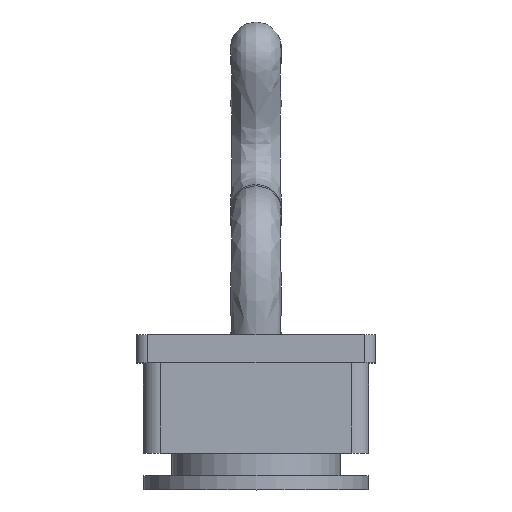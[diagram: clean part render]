
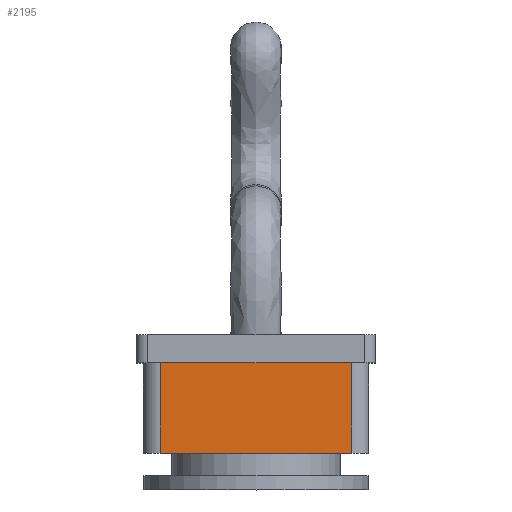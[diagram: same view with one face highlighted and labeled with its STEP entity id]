
A CAD part, top view. The second image highlights one B-rep face of the part: STEP entity #2195.
In plain terms, the highlighted planar face has unit normal (0, 0, 1).
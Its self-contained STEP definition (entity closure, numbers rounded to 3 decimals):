
#44 = PLANE('',#45);
#45 = AXIS2_PLACEMENT_3D('',#46,#47,#48);
#46 = CARTESIAN_POINT('',(-4.25,-46.4,246.25));
#47 = DIRECTION('',(-0.,1.,0.));
#48 = DIRECTION('',(0.,0.,1.));
#489 = VERTEX_POINT('',#490);
#490 = CARTESIAN_POINT('',(3.4,-46.4,254.5));
#509 = CYLINDRICAL_SURFACE('',#510,0.6);
#510 = AXIS2_PLACEMENT_3D('',#511,#512,#513);
#511 = CARTESIAN_POINT('',(3.4,-49.6,253.9));
#512 = DIRECTION('',(-0.,1.,0.));
#513 = DIRECTION('',(1.,0.,-0.));
#521 = EDGE_CURVE('',#522,#489,#524,.T.);
#522 = VERTEX_POINT('',#523);
#523 = CARTESIAN_POINT('',(-3.4,-46.4,254.5));
#524 = SURFACE_CURVE('',#525,(#529,#536),.PCURVE_S1.);
#525 = LINE('',#526,#527);
#526 = CARTESIAN_POINT('',(-4.,-46.4,254.5));
#527 = VECTOR('',#528,1.);
#528 = DIRECTION('',(1.,0.,-0.));
#529 = PCURVE('',#44,#530);
#530 = DEFINITIONAL_REPRESENTATION('',(#531),#535);
#531 = LINE('',#532,#533);
#532 = CARTESIAN_POINT('',(8.25,0.25));
#533 = VECTOR('',#534,1.);
#534 = DIRECTION('',(0.,1.));
#535 = ( GEOMETRIC_REPRESENTATION_CONTEXT(2) 
PARAMETRIC_REPRESENTATION_CONTEXT() REPRESENTATION_CONTEXT('2D SPACE',''
  ) );
#536 = PCURVE('',#537,#542);
#537 = PLANE('',#538);
#538 = AXIS2_PLACEMENT_3D('',#539,#540,#541);
#539 = CARTESIAN_POINT('',(-4.,-49.6,254.5));
#540 = DIRECTION('',(0.,0.,1.));
#541 = DIRECTION('',(1.,0.,-0.));
#542 = DEFINITIONAL_REPRESENTATION('',(#543),#547);
#543 = LINE('',#544,#545);
#544 = CARTESIAN_POINT('',(0.,3.2));
#545 = VECTOR('',#546,1.);
#546 = DIRECTION('',(1.,0.));
#547 = ( GEOMETRIC_REPRESENTATION_CONTEXT(2) 
PARAMETRIC_REPRESENTATION_CONTEXT() REPRESENTATION_CONTEXT('2D SPACE',''
  ) );
#564 = CYLINDRICAL_SURFACE('',#565,0.6);
#565 = AXIS2_PLACEMENT_3D('',#566,#567,#568);
#566 = CARTESIAN_POINT('',(-3.4,-49.6,253.9));
#567 = DIRECTION('',(-0.,1.,0.));
#568 = DIRECTION('',(-1.,-0.,0.));
#2091 = PLANE('',#2092);
#2092 = AXIS2_PLACEMENT_3D('',#2093,#2094,#2095);
#2093 = CARTESIAN_POINT('',(-4.,-49.6,246.5));
#2094 = DIRECTION('',(-0.,1.,0.));
#2095 = DIRECTION('',(0.,0.,1.));
#2150 = VERTEX_POINT('',#2151);
#2151 = CARTESIAN_POINT('',(-3.4,-49.6,254.5));
#2173 = EDGE_CURVE('',#2150,#522,#2174,.T.);
#2174 = SURFACE_CURVE('',#2175,(#2179,#2186),.PCURVE_S1.);
#2175 = LINE('',#2176,#2177);
#2176 = CARTESIAN_POINT('',(-3.4,-49.6,254.5));
#2177 = VECTOR('',#2178,1.);
#2178 = DIRECTION('',(-0.,1.,0.));
#2179 = PCURVE('',#564,#2180);
#2180 = DEFINITIONAL_REPRESENTATION('',(#2181),#2185);
#2181 = LINE('',#2182,#2183);
#2182 = CARTESIAN_POINT('',(1.571,0.));
#2183 = VECTOR('',#2184,1.);
#2184 = DIRECTION('',(0.,1.));
#2185 = ( GEOMETRIC_REPRESENTATION_CONTEXT(2) 
PARAMETRIC_REPRESENTATION_CONTEXT() REPRESENTATION_CONTEXT('2D SPACE',''
  ) );
#2186 = PCURVE('',#537,#2187);
#2187 = DEFINITIONAL_REPRESENTATION('',(#2188),#2192);
#2188 = LINE('',#2189,#2190);
#2189 = CARTESIAN_POINT('',(0.6,0.));
#2190 = VECTOR('',#2191,1.);
#2191 = DIRECTION('',(0.,1.));
#2192 = ( GEOMETRIC_REPRESENTATION_CONTEXT(2) 
PARAMETRIC_REPRESENTATION_CONTEXT() REPRESENTATION_CONTEXT('2D SPACE',''
  ) );
#2195 = ADVANCED_FACE('',(#2196),#537,.T.);
#2196 = FACE_BOUND('',#2197,.T.);
#2197 = EDGE_LOOP('',(#2198,#2199,#2200,#2223));
#2198 = ORIENTED_EDGE('',*,*,#521,.F.);
#2199 = ORIENTED_EDGE('',*,*,#2173,.F.);
#2200 = ORIENTED_EDGE('',*,*,#2201,.T.);
#2201 = EDGE_CURVE('',#2150,#2202,#2204,.T.);
#2202 = VERTEX_POINT('',#2203);
#2203 = CARTESIAN_POINT('',(3.4,-49.6,254.5));
#2204 = SURFACE_CURVE('',#2205,(#2209,#2216),.PCURVE_S1.);
#2205 = LINE('',#2206,#2207);
#2206 = CARTESIAN_POINT('',(-4.,-49.6,254.5));
#2207 = VECTOR('',#2208,1.);
#2208 = DIRECTION('',(1.,0.,-0.));
#2209 = PCURVE('',#537,#2210);
#2210 = DEFINITIONAL_REPRESENTATION('',(#2211),#2215);
#2211 = LINE('',#2212,#2213);
#2212 = CARTESIAN_POINT('',(0.,0.));
#2213 = VECTOR('',#2214,1.);
#2214 = DIRECTION('',(1.,0.));
#2215 = ( GEOMETRIC_REPRESENTATION_CONTEXT(2) 
PARAMETRIC_REPRESENTATION_CONTEXT() REPRESENTATION_CONTEXT('2D SPACE',''
  ) );
#2216 = PCURVE('',#2091,#2217);
#2217 = DEFINITIONAL_REPRESENTATION('',(#2218),#2222);
#2218 = LINE('',#2219,#2220);
#2219 = CARTESIAN_POINT('',(8.,0.));
#2220 = VECTOR('',#2221,1.);
#2221 = DIRECTION('',(0.,1.));
#2222 = ( GEOMETRIC_REPRESENTATION_CONTEXT(2) 
PARAMETRIC_REPRESENTATION_CONTEXT() REPRESENTATION_CONTEXT('2D SPACE',''
  ) );
#2223 = ORIENTED_EDGE('',*,*,#2224,.T.);
#2224 = EDGE_CURVE('',#2202,#489,#2225,.T.);
#2225 = SURFACE_CURVE('',#2226,(#2230,#2237),.PCURVE_S1.);
#2226 = LINE('',#2227,#2228);
#2227 = CARTESIAN_POINT('',(3.4,-49.6,254.5));
#2228 = VECTOR('',#2229,1.);
#2229 = DIRECTION('',(-0.,1.,0.));
#2230 = PCURVE('',#537,#2231);
#2231 = DEFINITIONAL_REPRESENTATION('',(#2232),#2236);
#2232 = LINE('',#2233,#2234);
#2233 = CARTESIAN_POINT('',(7.4,0.));
#2234 = VECTOR('',#2235,1.);
#2235 = DIRECTION('',(0.,1.));
#2236 = ( GEOMETRIC_REPRESENTATION_CONTEXT(2) 
PARAMETRIC_REPRESENTATION_CONTEXT() REPRESENTATION_CONTEXT('2D SPACE',''
  ) );
#2237 = PCURVE('',#509,#2238);
#2238 = DEFINITIONAL_REPRESENTATION('',(#2239),#2243);
#2239 = LINE('',#2240,#2241);
#2240 = CARTESIAN_POINT('',(-1.571,0.));
#2241 = VECTOR('',#2242,1.);
#2242 = DIRECTION('',(-0.,1.));
#2243 = ( GEOMETRIC_REPRESENTATION_CONTEXT(2) 
PARAMETRIC_REPRESENTATION_CONTEXT() REPRESENTATION_CONTEXT('2D SPACE',''
  ) );
